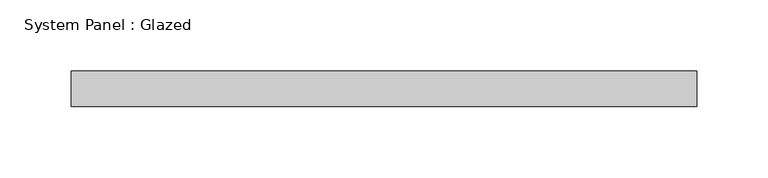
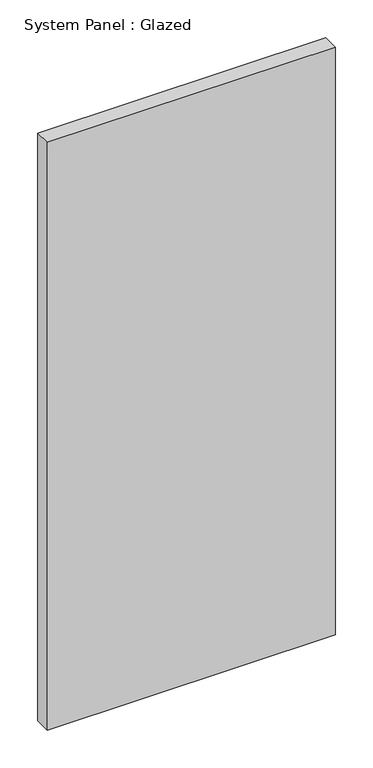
"""IFC4 building model written with IfcOpenShell, lengths in millimetres: plate geometry, System Panel : Glazed."""

import ifcopenshell
import ifcopenshell.guid

model = None  # the IFC model being written
_history = None  # IfcOwnerHistory: only IFC2X3 demands one
_inside = {}  # id of a spatial element -> (the spatial element, [elements in it])
_under = {}  # id of a project, library or spatial element -> (it, [spatial elements below it])
_declared = {}  # id of a project -> (the project, [libraries it declares])
_typed = {}  # id of a type object -> (the type object, [elements of that type])
_made_of = {}  # id of a material, layer set ... -> (it, [elements and type objects made of it])


def new_model(schema):
    """Start an empty IFC model of exactly this schema.

    Asked for "IFC4X3", IfcOpenShell would pick the latest addendum, in which some entities
    have other attributes; the version numbers below select the first issue.
    IFC2X3 requires an IfcOwnerHistory on every rooted entity: one is made here for all.
    """
    global model, _history
    if schema == "IFC4X3":
        model = ifcopenshell.file(schema_version=(4, 3, 0, 0))
    else:
        model = ifcopenshell.file(schema=schema)
    _inside.clear()
    _under.clear()
    _declared.clear()
    _typed.clear()
    _made_of.clear()
    _history = None
    if model.schema == "IFC2X3":
        org = make("IfcOrganization", Name="unknown")
        user = make(
            "IfcPersonAndOrganization",
            ThePerson=make("IfcPerson", FamilyName="unknown"),
            TheOrganization=org,
        )
        app = make(
            "IfcApplication",
            ApplicationDeveloper=org,
            Version="unknown",
            ApplicationFullName="unknown",
            ApplicationIdentifier="unknown",
        )
        _history = make(
            "IfcOwnerHistory",
            OwningUser=user,
            OwningApplication=app,
            ChangeAction="ADDED",
            CreationDate=0,
        )
    return model


def make(cls, **values):
    """One entity of the class cls with the attributes given. An attribute that is None is left unset."""
    return model.create_entity(
        cls, **{name: value for name, value in values.items() if value is not None}
    )


def rooted(cls, **values):
    """An entity with a GlobalId (a new one), such as an element, a storey or a relation."""
    return make(cls, GlobalId=ifcopenshell.guid.new(), OwnerHistory=_history, **values)


def si_unit(unit_type, name, prefix=None):
    """IfcSIUnit, for example si_unit("LENGTHUNIT", "METRE", prefix="MILLI")."""
    return make("IfcSIUnit", UnitType=unit_type, Prefix=prefix, Name=name)


def assignment(units):
    """IfcUnitAssignment: the units of a project."""
    return None if units is None else make("IfcUnitAssignment", Units=units)


def point(xyz):
    """IfcCartesianPoint."""
    return None if xyz is None else make("IfcCartesianPoint", Coordinates=xyz)


def direction(xyz):
    """IfcDirection."""
    return None if xyz is None else make("IfcDirection", DirectionRatios=xyz)


def frame(location, z_axis=None, x_axis=None):
    """IfcAxis2Placement3D, a coordinate frame: its origin and axes. An axis left out is left unset."""
    return make(
        "IfcAxis2Placement3D",
        Location=point(location),
        Axis=direction(z_axis),
        RefDirection=direction(x_axis),
    )


def origin():
    """The frame at (0, 0, 0) with its axes left unset."""
    return frame((0.0, 0.0, 0.0))


def origin_with_axes():
    """The frame at (0, 0, 0) with the z axis (0, 0, 1) and the x axis (1, 0, 0) written out."""
    return frame((0.0, 0.0, 0.0), z_axis=(0.0, 0.0, 1.0), x_axis=(1.0, 0.0, 0.0))


def place(relative_to, where):
    """IfcLocalPlacement: puts the frame where relative to a parent placement (None: the world)."""
    return make(
        "IfcLocalPlacement", PlacementRelTo=relative_to, RelativePlacement=where
    )


def context(
    kind, dimensions, precision=None, world=None, true_north=None, identifier=None
):
    """IfcGeometricRepresentationContext, for example the 3D "Model" context."""
    return make(
        "IfcGeometricRepresentationContext",
        ContextIdentifier=identifier,
        ContextType=kind,
        CoordinateSpaceDimension=dimensions,
        Precision=precision,
        WorldCoordinateSystem=world,
        TrueNorth=true_north,
    )


def project(units=None, contexts=None):
    """IfcProject with its units and contexts."""
    return rooted(
        "IfcProject",
        Name="project",
        RepresentationContexts=contexts,
        UnitsInContext=assignment(units),
    )


def spatial(cls, under=None, at=None, **own):
    """A site, building, storey or space (cls), placed at a placement, below another one or the project."""
    s = rooted(cls, ObjectPlacement=at, **own)
    if under is not None:
        _under.setdefault(under.id(), (under, []))[1].append(s)
    return s


def polyline(points):
    """IfcPolyline through the points."""
    return make("IfcPolyline", Points=[point(p) for p in points])


def outline(outer, holes=None, kind="AREA"):
    """IfcArbitraryClosedProfileDef: a profile drawn as a closed curve; with holes, ...WithVoids."""
    if holes is None:
        return make("IfcArbitraryClosedProfileDef", ProfileType=kind, OuterCurve=outer)
    return make(
        "IfcArbitraryProfileDefWithVoids",
        ProfileType=kind,
        OuterCurve=outer,
        InnerCurves=holes,
    )


def extrude(swept, where, along, depth):
    """IfcExtrudedAreaSolid: the profile swept, set in the frame where, extruded along a direction by depth."""
    return make(
        "IfcExtrudedAreaSolid",
        SweptArea=swept,
        Position=where,
        ExtrudedDirection=direction(along),
        Depth=depth,
    )


def shape(context_of_items, identifier, shape_type, items):
    """IfcShapeRepresentation: the items that make up one representation, for example the "Body"."""
    return make(
        "IfcShapeRepresentation",
        ContextOfItems=context_of_items,
        RepresentationIdentifier=identifier,
        RepresentationType=shape_type,
        Items=items,
    )


def source(mapping_origin, context_of_items, identifier, shape_type, items):
    """IfcRepresentationMap: a shape defined once, which mapped items show again and again."""
    return make(
        "IfcRepresentationMap",
        MappingOrigin=mapping_origin,
        MappedRepresentation=shape(context_of_items, identifier, shape_type, items),
    )


def transform(
    local_origin,
    x_axis=None,
    y_axis=None,
    z_axis=None,
    scale=None,
    scale2=None,
    scale3=None,
    uniform=True,
):
    """IfcCartesianTransformationOperator3D, or its non-uniform kind. x_axis, y_axis, z_axis: its Axis1, 2, 3."""
    if uniform:
        return make(
            "IfcCartesianTransformationOperator3D",
            Axis1=direction(x_axis),
            Axis2=direction(y_axis),
            LocalOrigin=point(local_origin),
            Scale=scale,
            Axis3=direction(z_axis),
        )
    return make(
        "IfcCartesianTransformationOperator3DnonUniform",
        Axis1=direction(x_axis),
        Axis2=direction(y_axis),
        LocalOrigin=point(local_origin),
        Scale=scale,
        Axis3=direction(z_axis),
        Scale2=scale2,
        Scale3=scale3,
    )


def mapped(mapping_source, mapping_target):
    """IfcMappedItem: shows the shape of a source again, moved by a transform."""
    return make(
        "IfcMappedItem", MappingSource=mapping_source, MappingTarget=mapping_target
    )


def made_of(thing, what):
    """Note that an element or type object is made of a material, layer set ...; save() writes the relation."""
    if what is not None:
        _made_of.setdefault(what.id(), (what, []))[1].append(thing)
    return thing


def element(
    cls,
    number,
    at=None,
    inside=None,
    cuts=None,
    type_object=None,
    material=None,
    context=None,
    identifier="Body",
    shape_type=None,
    held_by="IfcProductDefinitionShape",
    body=None,
    shapes=None,
    **own,
):
    """One element of the class cls, such as IfcWall. Its Tag is "e" and its number.

    at: its placement. inside: the storey or other place that contains it. cuts: it is an
    opening in that element (IfcRelVoidsElement). A single representation is given by context,
    identifier, shape_type and body (its items); several are given by shapes. held_by: the class
    of the entity that holds the representations. save() writes the other relations.
    """
    e = rooted(cls, Tag="e%d" % number, ObjectPlacement=at, **own)
    if body is not None:
        shapes = [shape(context, identifier, shape_type, body)]
    if shapes is not None:
        e.Representation = make(held_by, Representations=shapes)
    if inside is not None:
        _inside.setdefault(inside.id(), (inside, []))[1].append(e)
    if cuts is not None:
        rooted(
            "IfcRelVoidsElement", RelatingBuildingElement=cuts, RelatedOpeningElement=e
        )
    if type_object is not None:
        _typed.setdefault(type_object.id(), (type_object, []))[1].append(e)
    return made_of(e, material)


def aggregate(whole, parts):
    """IfcRelAggregates: a whole, such as a stair, and the parts it consists of."""
    return rooted("IfcRelAggregates", RelatingObject=whole, RelatedObjects=parts)


def save(model, path):
    """Write the relations noted so far, then the file.

    IfcRelAggregates (storeys below a building ...), IfcRelContainedInSpatialStructure (elements
    in a storey), IfcRelDefinesByType, IfcRelAssociatesMaterial and IfcRelDeclares: one each for
    every whole, place, type object, material and project.
    """
    for whole, parts in _under.values():
        aggregate(whole, parts)
    for where, things in _inside.values():
        rooted(
            "IfcRelContainedInSpatialStructure",
            RelatedElements=things,
            RelatingStructure=where,
        )
    for kind, things in _typed.values():
        rooted("IfcRelDefinesByType", RelatedObjects=things, RelatingType=kind)
    for what, things in _made_of.values():
        rooted("IfcRelAssociatesMaterial", RelatedObjects=things, RelatingMaterial=what)
    for by, libraries in _declared.values():
        rooted("IfcRelDeclares", RelatingContext=by, RelatedDefinitions=libraries)
    model.write(path)


def system_panel_glazed_069f12c1(model_context):
    return source(origin(), model_context, "Body", "SweptSolid", [
        extrude(outline(polyline([(220.0, 24.5), (-220.0, 24.5), (-220.0, 49.5), (220.0, 49.5), (220.0, 24.5)])), origin_with_axes(), (0.0, 0.0, 1.0), 950.0),
    ])


if __name__ == "__main__":
    model = new_model("IFC4")
    model_context = context("Model", 3, world=origin())
    ifc_project = project(units=[si_unit("LENGTHUNIT", "METRE", prefix="MILLI")], contexts=[model_context])
    site = spatial("IfcSite", under=ifc_project)
    building = spatial("IfcBuilding", under=site)
    placement = place(None, origin())
    system_panel_glazed_shape = system_panel_glazed_069f12c1(model_context)
    element("IfcPlate", 1, ObjectType="System Panel : Glazed", at=placement, inside=building, context=model_context, shape_type="MappedRepresentation", body=[
        mapped(system_panel_glazed_shape, transform((0.0, 0.0, 0.0), x_axis=(1.0, 0.0, 0.0), y_axis=(0.0, 1.0, 0.0), z_axis=(0.0, 0.0, 1.0))),
    ])
    save(model, "model.ifc")
